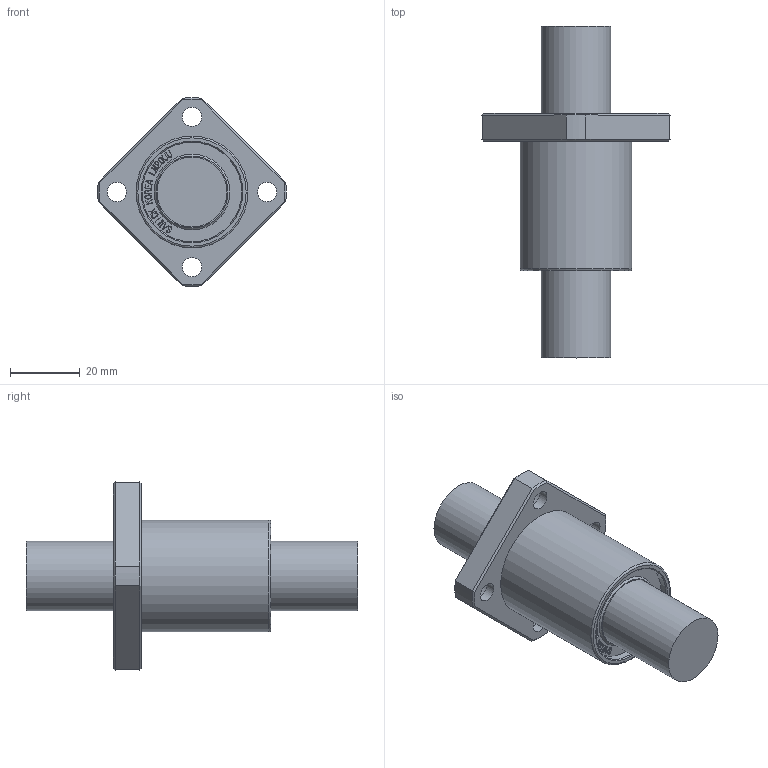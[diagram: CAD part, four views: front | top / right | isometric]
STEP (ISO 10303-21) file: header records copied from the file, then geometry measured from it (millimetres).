
FILE_DESCRIPTION(/* description */ (''),/* implementation_level */ '2;1');
FILE_NAME(/* name */ 'W:\(01) 2024년 홈페이지 CAD파일 최신화\LMEK\IPT\LMEK20UU.stp',/* time_stamp */ '2025-01-25T10:46:00+09:00',/* author */ ('서우현'),/* organization */ (''),/* preprocessor_version */ 'ST-DEVELOPER v17.2',/* originating_system */ 'Autodesk Inventor 2019',/* authorisation */ '');
FILE_SCHEMA (('AUTOMOTIVE_DESIGN { 1 0 10303 214 3 1 1 }'));
Length unit declared in the file: millimetre
Products named in the file (1): LM5
Bounding box: 53.97 x 95 x 53.97 mm (x, y, z)
Volume: 56087 mm3; surface area: 12850.1 mm2
Topology: 1 solids, 1 shells, 864 faces, 2426 edges, 1620 vertices
Faces by surface type: bspline 592, plane 240, cylinder 18, cone 12, torus 2
Full cylindrical faces by diameter (mm): 5.5 x4, 9.5 x4, 20 x2, 28.5 x2, 32 x2
Entity records: 29712 total; most frequent: CARTESIAN_POINT 11015, ORIENTED_EDGE 4852, EDGE_CURVE 2426, DIRECTION 1854, VERTEX_POINT 1620, B_SPLINE_CURVE_WITH_KNOTS 1184, LINE 1144, VECTOR 1144
